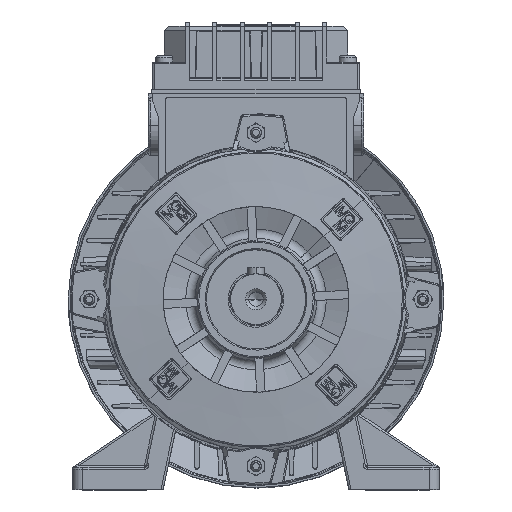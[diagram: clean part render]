
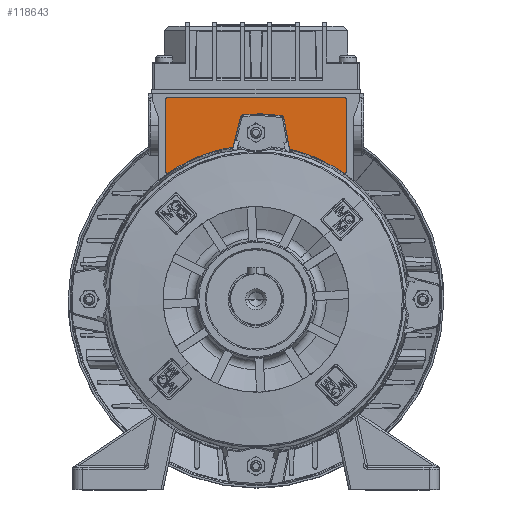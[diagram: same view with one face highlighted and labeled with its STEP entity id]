
A CAD part, top view. The second image highlights one B-rep face of the part: STEP entity #118643.
In plain terms, the highlighted planar face has unit normal (0, 0, 1).
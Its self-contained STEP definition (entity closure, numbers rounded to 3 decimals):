
#495 = ORIENTED_EDGE ( 'NONE', *, *, #53180, .T. ) ;
#658 = DIRECTION ( 'NONE',  ( 0., 0., -1. ) ) ;
#1019 = AXIS2_PLACEMENT_3D ( 'NONE', #25416, #94449, #35322 ) ;
#2856 = DIRECTION ( 'NONE',  ( -1., 0., 0. ) ) ;
#4893 = CARTESIAN_POINT ( 'NONE',  ( -43.1, 94.5, 72.9 ) ) ;
#7659 = ORIENTED_EDGE ( 'NONE', *, *, #27282, .T. ) ;
#7748 = ORIENTED_EDGE ( 'NONE', *, *, #95997, .T. ) ;
#9194 = CIRCLE ( 'NONE', #41315, 3.25 ) ;
#9466 = AXIS2_PLACEMENT_3D ( 'NONE', #83494, #24312, #93365 ) ;
#11718 = DIRECTION ( 'NONE',  ( 0., 0., -1. ) ) ;
#12358 = ORIENTED_EDGE ( 'NONE', *, *, #24391, .T. ) ;
#16829 = CIRCLE ( 'NONE', #97538, 1. ) ;
#18685 = VERTEX_POINT ( 'NONE', #85694 ) ;
#24312 = DIRECTION ( 'NONE',  ( 0., 0., 1. ) ) ;
#24391 = EDGE_CURVE ( 'NONE', #18685, #87993, #94564, .T. ) ;
#25416 = CARTESIAN_POINT ( 'NONE',  ( 42.1, 94.5, 72.9 ) ) ;
#27282 = EDGE_CURVE ( 'NONE', #115909, #78106, #16829, .T. ) ;
#30057 = LINE ( 'NONE', #98124, #79492 ) ;
#30386 = CIRCLE ( 'NONE', #1019, 1. ) ;
#31848 = AXIS2_PLACEMENT_3D ( 'NONE', #91934, #32835, #101858 ) ;
#31958 = CARTESIAN_POINT ( 'NONE',  ( -42.1, 60.857, 72.9 ) ) ;
#32835 = DIRECTION ( 'NONE',  ( 0., 0., 1. ) ) ;
#35322 = DIRECTION ( 'NONE',  ( -1., 0., 0. ) ) ;
#35723 = CARTESIAN_POINT ( 'NONE',  ( -41.531, 60.035, 72.9 ) ) ;
#35891 = DIRECTION ( 'NONE',  ( 0., 0., 1. ) ) ;
#39353 = DIRECTION ( 'NONE',  ( 0., 0., 1. ) ) ;
#40023 = CARTESIAN_POINT ( 'NONE',  ( 43.1, 94.5, 72.9 ) ) ;
#40556 = CARTESIAN_POINT ( 'NONE',  ( -3.25, 79., 72.9 ) ) ;
#41153 = EDGE_CURVE ( 'NONE', #82606, #48425, #97078, .T. ) ;
#41315 = AXIS2_PLACEMENT_3D ( 'NONE', #98437, #39353, #108377 ) ;
#41513 = EDGE_CURVE ( 'NONE', #48425, #82606, #9194, .T. ) ;
#41934 = PLANE ( 'NONE',  #43692 ) ;
#42974 = CARTESIAN_POINT ( 'NONE',  ( 3.25, 79., 72.9 ) ) ;
#43692 = AXIS2_PLACEMENT_3D ( 'NONE', #31958, #11718, #51808 ) ;
#44558 = EDGE_CURVE ( 'NONE', #87993, #111462, #30386, .T. ) ;
#48425 = VERTEX_POINT ( 'NONE', #40556 ) ;
#51178 = ORIENTED_EDGE ( 'NONE', *, *, #54960, .T. ) ;
#51808 = DIRECTION ( 'NONE',  ( -1., 0., 0. ) ) ;
#51885 = DIRECTION ( 'NONE',  ( 0., -1., 0. ) ) ;
#53180 = EDGE_CURVE ( 'NONE', #111462, #86471, #30057, .T. ) ;
#54960 = EDGE_CURVE ( 'NONE', #108106, #18685, #125401, .T. ) ;
#59299 = DIRECTION ( 'NONE',  ( -1., 0., 0. ) ) ;
#59409 = CIRCLE ( 'NONE', #31848, 1. ) ;
#59802 = CARTESIAN_POINT ( 'NONE',  ( 0., 0., 72.9 ) ) ;
#61989 = DIRECTION ( 'NONE',  ( 0., 0., 1. ) ) ;
#62793 = EDGE_LOOP ( 'NONE', ( #7659, #113472, #51178, #12358, #123153, #495, #7748, #103310 ) ) ;
#64309 = CARTESIAN_POINT ( 'NONE',  ( 43.1, 94.5, 72.9 ) ) ;
#64928 = FACE_BOUND ( 'NONE', #104870, .T. ) ;
#66898 = AXIS2_PLACEMENT_3D ( 'NONE', #59802, #658, #69800 ) ;
#68106 = ORIENTED_EDGE ( 'NONE', *, *, #41513, .F. ) ;
#69800 = DIRECTION ( 'NONE',  ( 1., 0., 0. ) ) ;
#74834 = AXIS2_PLACEMENT_3D ( 'NONE', #94984, #35891, #104928 ) ;
#76528 = VERTEX_POINT ( 'NONE', #4893 ) ;
#78106 = VERTEX_POINT ( 'NONE', #35723 ) ;
#79492 = VECTOR ( 'NONE', #59299, 1000. ) ;
#80898 = CARTESIAN_POINT ( 'NONE',  ( -43.1, 94.5, 72.9 ) ) ;
#82606 = VERTEX_POINT ( 'NONE', #42974 ) ;
#83494 = CARTESIAN_POINT ( 'NONE',  ( 0., 79., 72.9 ) ) ;
#85694 = CARTESIAN_POINT ( 'NONE',  ( 43.1, 60.857, 72.9 ) ) ;
#86289 = VECTOR ( 'NONE', #51885, 1000. ) ;
#86401 = CARTESIAN_POINT ( 'NONE',  ( 42.1, 95.5, 72.9 ) ) ;
#86471 = VERTEX_POINT ( 'NONE', #96792 ) ;
#87993 = VERTEX_POINT ( 'NONE', #40023 ) ;
#91443 = VECTOR ( 'NONE', #104006, 1000. ) ;
#91934 = CARTESIAN_POINT ( 'NONE',  ( -42.1, 94.5, 72.9 ) ) ;
#93365 = DIRECTION ( 'NONE',  ( -1., 0., 0. ) ) ;
#94449 = DIRECTION ( 'NONE',  ( 0., 0., 1. ) ) ;
#94495 = CIRCLE ( 'NONE', #66898, 73. ) ;
#94564 = LINE ( 'NONE', #64309, #91443 ) ;
#94984 = CARTESIAN_POINT ( 'NONE',  ( 42.1, 60.857, 72.9 ) ) ;
#95997 = EDGE_CURVE ( 'NONE', #86471, #76528, #59409, .T. ) ;
#96792 = CARTESIAN_POINT ( 'NONE',  ( -42.1, 95.5, 72.9 ) ) ;
#97078 = CIRCLE ( 'NONE', #9466, 3.25 ) ;
#97538 = AXIS2_PLACEMENT_3D ( 'NONE', #121036, #61989, #2856 ) ;
#98124 = CARTESIAN_POINT ( 'NONE',  ( -42.1, 95.5, 72.9 ) ) ;
#98437 = CARTESIAN_POINT ( 'NONE',  ( 0., 79., 72.9 ) ) ;
#98948 = EDGE_CURVE ( 'NONE', #78106, #108106, #94495, .T. ) ;
#99372 = CARTESIAN_POINT ( 'NONE',  ( -43.1, 60.857, 72.9 ) ) ;
#101858 = DIRECTION ( 'NONE',  ( 1., 0., 0. ) ) ;
#102957 = CARTESIAN_POINT ( 'NONE',  ( 41.531, 60.035, 72.9 ) ) ;
#103310 = ORIENTED_EDGE ( 'NONE', *, *, #111242, .T. ) ;
#104006 = DIRECTION ( 'NONE',  ( 0., 1., 0. ) ) ;
#104870 = EDGE_LOOP ( 'NONE', ( #68106, #109048 ) ) ;
#104928 = DIRECTION ( 'NONE',  ( 1., 0., 0. ) ) ;
#108106 = VERTEX_POINT ( 'NONE', #102957 ) ;
#108377 = DIRECTION ( 'NONE',  ( -1., 0., 0. ) ) ;
#109048 = ORIENTED_EDGE ( 'NONE', *, *, #41153, .F. ) ;
#111242 = EDGE_CURVE ( 'NONE', #76528, #115909, #112480, .T. ) ;
#111462 = VERTEX_POINT ( 'NONE', #86401 ) ;
#112480 = LINE ( 'NONE', #80898, #86289 ) ;
#113472 = ORIENTED_EDGE ( 'NONE', *, *, #98948, .T. ) ;
#114247 = FACE_OUTER_BOUND ( 'NONE', #62793, .T. ) ;
#115909 = VERTEX_POINT ( 'NONE', #99372 ) ;
#118643 = ADVANCED_FACE ( 'NONE', ( #64928, #114247 ), #41934, .F. ) ;
#121036 = CARTESIAN_POINT ( 'NONE',  ( -42.1, 60.857, 72.9 ) ) ;
#123153 = ORIENTED_EDGE ( 'NONE', *, *, #44558, .T. ) ;
#125401 = CIRCLE ( 'NONE', #74834, 1. ) ;
